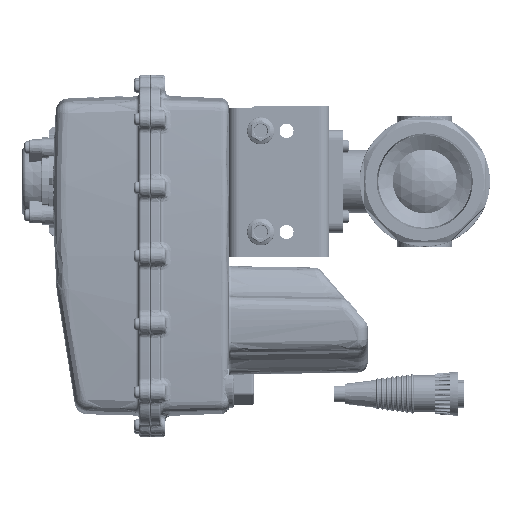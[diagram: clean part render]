
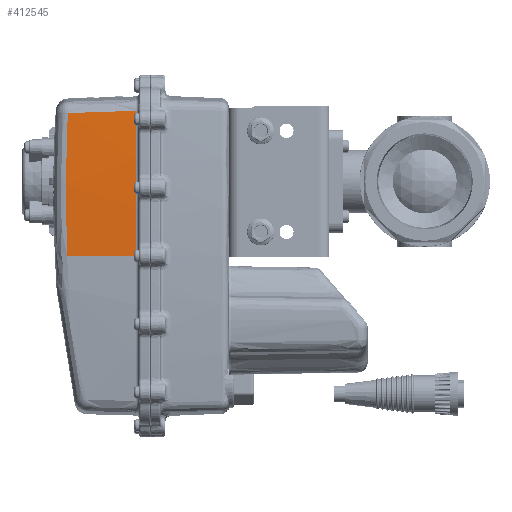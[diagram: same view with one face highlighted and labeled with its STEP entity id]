
A CAD part, left-side view. The second image highlights one B-rep face of the part: STEP entity #412545.
In plain terms, the highlighted conical face has half-angle 2 degrees and reference radius 762 mm.
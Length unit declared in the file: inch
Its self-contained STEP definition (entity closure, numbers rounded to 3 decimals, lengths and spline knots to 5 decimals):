
#2668 = AXIS2_PLACEMENT_3D ( 'NONE', #150382, #380985, #18602 ) ;
#8784 = EDGE_CURVE ( 'NONE', #266422, #75420, #286569, .T. ) ;
#13947 = CARTESIAN_POINT ( 'NONE',  ( -1.73746, 7.09118, -1.00366 ) ) ;
#18602 = DIRECTION ( 'NONE',  ( -1., 0., 0. ) ) ;
#37483 = DIRECTION ( 'NONE',  ( 0., 1., 0. ) ) ;
#42469 = EDGE_CURVE ( 'NONE', #189210, #266422, #255233, .T. ) ;
#46893 = CARTESIAN_POINT ( 'NONE',  ( -1.65126, 7.08431, 0.88221 ) ) ;
#55493 = EDGE_CURVE ( 'NONE', #432686, #189210, #359701, .T. ) ;
#75420 = VERTEX_POINT ( 'NONE', #101967 ) ;
#78427 = CARTESIAN_POINT ( 'NONE',  ( -1.65057, 5.7158, 1.39528 ) ) ;
#93073 = CARTESIAN_POINT ( 'NONE',  ( -1.62317, 6.57257, 1.36762 ) ) ;
#101967 = CARTESIAN_POINT ( 'NONE',  ( -1.78827, 5.7158, -1.47524 ) ) ;
#109310 = ORIENTED_EDGE ( 'NONE', *, *, #8784, .T. ) ;
#128970 = CONICAL_SURFACE ( 'NONE', #2668, 30., 0.035 ) ;
#141157 = EDGE_CURVE ( 'NONE', #75420, #432686, #373641, .T. ) ;
#141445 = CARTESIAN_POINT ( 'NONE',  ( -1.74083, 7.07428, -1.47524 ) ) ;
#145784 = CARTESIAN_POINT ( 'NONE',  ( -1.68423, 7.09774, 0.41158 ) ) ;
#150382 = CARTESIAN_POINT ( 'NONE',  ( 28.2, 5.38, -1.47524 ) ) ;
#152610 = CARTESIAN_POINT ( 'NONE',  ( -1.8, 5.38, -1.47524 ) ) ;
#166905 = ORIENTED_EDGE ( 'NONE', *, *, #141157, .T. ) ;
#174650 = CARTESIAN_POINT ( 'NONE',  ( -1.74083, 7.07428, -1.47524 ) ) ;
#185336 = CARTESIAN_POINT ( 'NONE',  ( -1.60757, 7.05996, 1.35187 ) ) ;
#189210 = VERTEX_POINT ( 'NONE', #185336 ) ;
#194174 = DIRECTION ( 'NONE',  ( -0.035, -0.999, 0. ) ) ;
#195724 = CARTESIAN_POINT ( 'NONE',  ( 28.2, 5.7158, -1.47524 ) ) ;
#212401 = CARTESIAN_POINT ( 'NONE',  ( -1.64404, 5.92016, 1.38869 ) ) ;
#215994 = CARTESIAN_POINT ( 'NONE',  ( -1.74049, 7.08411, -1.23948 ) ) ;
#225169 = EDGE_LOOP ( 'NONE', ( #292760, #109310, #166905, #282392 ) ) ;
#255233 = B_SPLINE_CURVE_WITH_KNOTS ( 'NONE', 3,
 ( #347759, #46893, #145784, #385009, #279701, #13947, #215994, #141445 ),
 .UNSPECIFIED., .F., .F.,
 ( 4, 2, 2, 4 ),
 ( 0., 0.03596, 0.05395, 0.07193 ),
 .UNSPECIFIED. ) ;
#264274 = CARTESIAN_POINT ( 'NONE',  ( -1.60757, 7.05996, 1.35187 ) ) ;
#266422 = VERTEX_POINT ( 'NONE', #174650 ) ;
#270331 = DIRECTION ( 'NONE',  ( 1., 0., 0. ) ) ;
#279701 = CARTESIAN_POINT ( 'NONE',  ( -1.72601, 7.09981, -0.53189 ) ) ;
#282392 = ORIENTED_EDGE ( 'NONE', *, *, #55493, .T. ) ;
#286569 = LINE ( 'NONE', #152610, #316272 ) ;
#292760 = ORIENTED_EDGE ( 'NONE', *, *, #42469, .T. ) ;
#313420 = CARTESIAN_POINT ( 'NONE',  ( -1.63096, 6.32887, 1.37549 ) ) ;
#316272 = VECTOR ( 'NONE', #194174, 39.37008 ) ;
#319891 = CARTESIAN_POINT ( 'NONE',  ( -1.61537, 6.81626, 1.35975 ) ) ;
#326498 = CARTESIAN_POINT ( 'NONE',  ( -1.65057, 5.7158, 1.39528 ) ) ;
#346330 = CARTESIAN_POINT ( 'NONE',  ( -1.6375, 6.12451, 1.38209 ) ) ;
#347759 = CARTESIAN_POINT ( 'NONE',  ( -1.60757, 7.05996, 1.35187 ) ) ;
#359701 = B_SPLINE_CURVE_WITH_KNOTS ( 'NONE', 3,
 ( #78427, #212401, #346330, #313420, #93073, #319891, #264274 ),
 .UNSPECIFIED., .F., .F.,
 ( 4, 3, 4 ),
 ( 0.00854, 0.02413, 0.04272 ),
 .UNSPECIFIED. ) ;
#373641 = CIRCLE ( 'NONE', #422536, 29.98827 ) ;
#380985 = DIRECTION ( 'NONE',  ( 0., -1., 0. ) ) ;
#385009 = CARTESIAN_POINT ( 'NONE',  ( -1.71758, 7.10136, -0.29583 ) ) ;
#412545 = ADVANCED_FACE ( 'NONE', ( #413897 ), #128970, .T. ) ;
#413897 = FACE_OUTER_BOUND ( 'NONE', #225169, .T. ) ;
#422536 = AXIS2_PLACEMENT_3D ( 'NONE', #195724, #37483, #270331 ) ;
#432686 = VERTEX_POINT ( 'NONE', #326498 ) ;
